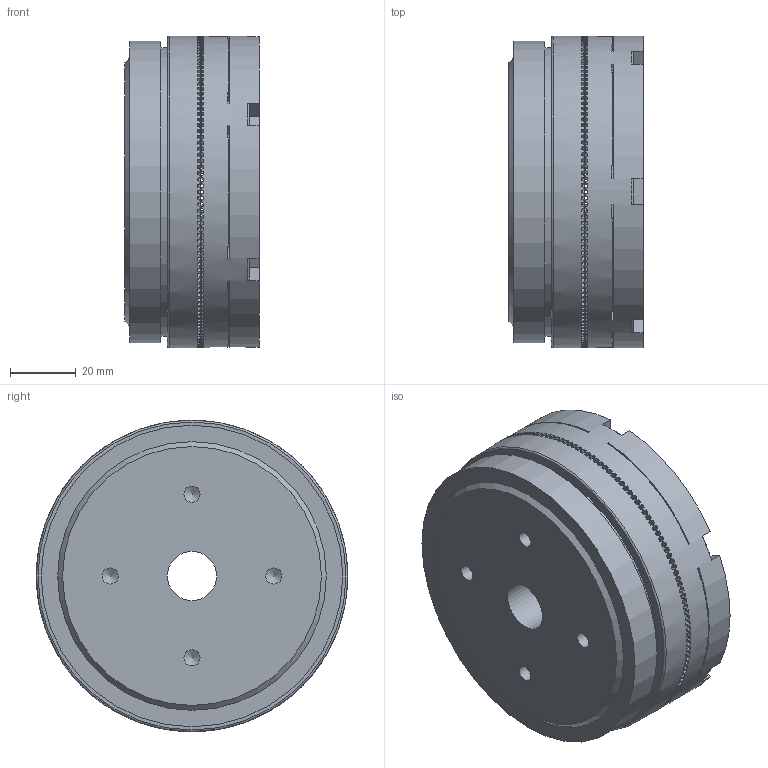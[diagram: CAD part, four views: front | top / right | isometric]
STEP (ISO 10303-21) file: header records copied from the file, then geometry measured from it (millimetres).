
FILE_DESCRIPTION(/* description */ (''),/* implementation_level */ '2;1');
FILE_NAME(/* name */ 'T:\INVENTOR\DISEGNI\07_Innesti_Elettmag_a_Dentini\07_01 EC_Z\07_01_095_01 EC095_Z\07_01_095_01 EC095_Z.stp',/* time_stamp */ '2019-11-25T11:12:23+01:00',/* author */ ('w.sartori'),/* organization */ (''),/* preprocessor_version */ 'ST-DEVELOPER v16.13',/* originating_system */ 'Autodesk Inventor 2018',/* authorisation */ '');
FILE_SCHEMA (('AUTOMOTIVE_DESIGN { 1 0 10303 214 3 1 1 }'));
Products named in the file (1): 07_01_095_01 EC095_Z
Bounding box: 41 x 95 x 95 mm (x, y, z)
Volume: 233220.2 mm3; surface area: 50737.6 mm2
Topology: 2 solids, 5 shells, 1533 faces, 4482 edges, 2972 vertices
Faces by surface type: plane 1403, cylinder 67, bspline 42, cone 20, torus 1
Full cylindrical faces by diameter (mm): 3 x3, 3.242 x6, 4.917 x4, 5.25 x3, 5.75 x3, 8 x3, 9.5 x3, 15 x1, 44.5 x1, 45 x1, 59 x1, 75 x1, 84 x1, 85.5 x1, 86 x1, 88 x1, 92 x1, 95 x2
Entity records: 55565 total; most frequent: CARTESIAN_POINT 11967, DIRECTION 10058, ORIENTED_EDGE 8844, EDGE_CURVE 4419, AXIS2_PLACEMENT_3D 4234, VERTEX_POINT 2955, ELLIPSE 1863, EDGE_LOOP 1620
